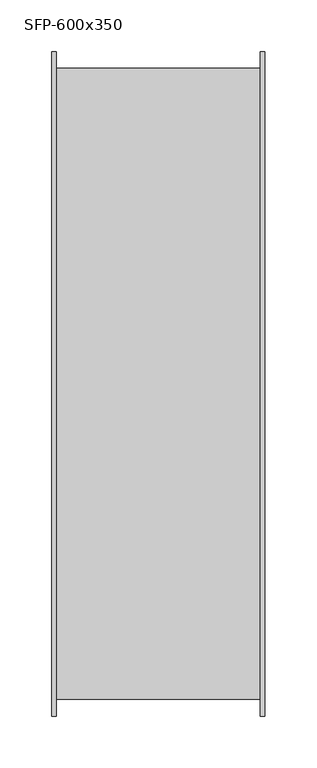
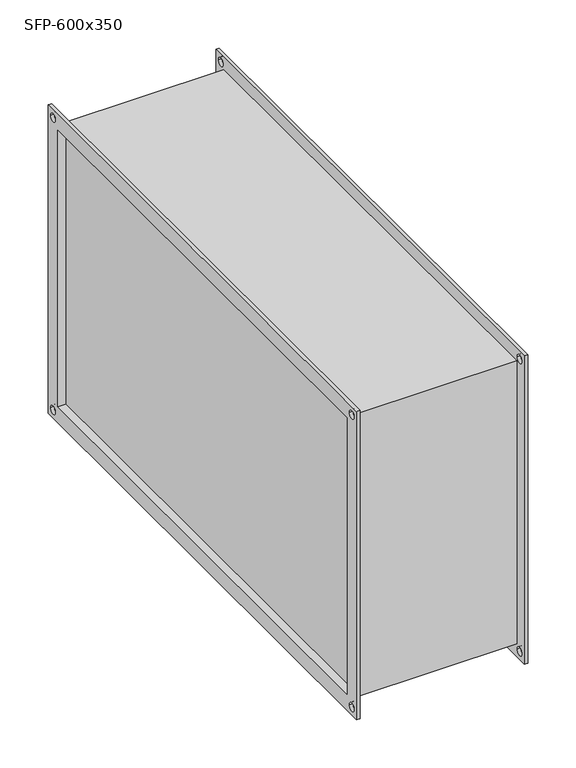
"""IFC4 building model written with IfcOpenShell, lengths in millimetres: damper geometry, СВ_ФильтрКассетный_КанальныйПрямоугольный_200-1000_SFP : SFP-600x350."""

import ifcopenshell
import ifcopenshell.guid

model = None  # the IFC model being written
_history = None  # IfcOwnerHistory: only IFC2X3 demands one
_inside = {}  # id of a spatial element -> (the spatial element, [elements in it])
_under = {}  # id of a project, library or spatial element -> (it, [spatial elements below it])
_declared = {}  # id of a project -> (the project, [libraries it declares])
_typed = {}  # id of a type object -> (the type object, [elements of that type])
_made_of = {}  # id of a material, layer set ... -> (it, [elements and type objects made of it])


def new_model(schema):
    """Start an empty IFC model of exactly this schema.

    Asked for "IFC4X3", IfcOpenShell would pick the latest addendum, in which some entities
    have other attributes; the version numbers below select the first issue.
    IFC2X3 requires an IfcOwnerHistory on every rooted entity: one is made here for all.
    """
    global model, _history
    if schema == "IFC4X3":
        model = ifcopenshell.file(schema_version=(4, 3, 0, 0))
    else:
        model = ifcopenshell.file(schema=schema)
    _inside.clear()
    _under.clear()
    _declared.clear()
    _typed.clear()
    _made_of.clear()
    _history = None
    if model.schema == "IFC2X3":
        org = make("IfcOrganization", Name="unknown")
        user = make(
            "IfcPersonAndOrganization",
            ThePerson=make("IfcPerson", FamilyName="unknown"),
            TheOrganization=org,
        )
        app = make(
            "IfcApplication",
            ApplicationDeveloper=org,
            Version="unknown",
            ApplicationFullName="unknown",
            ApplicationIdentifier="unknown",
        )
        _history = make(
            "IfcOwnerHistory",
            OwningUser=user,
            OwningApplication=app,
            ChangeAction="ADDED",
            CreationDate=0,
        )
    return model


def make(cls, **values):
    """One entity of the class cls with the attributes given. An attribute that is None is left unset."""
    return model.create_entity(
        cls, **{name: value for name, value in values.items() if value is not None}
    )


def rooted(cls, **values):
    """An entity with a GlobalId (a new one), such as an element, a storey or a relation."""
    return make(cls, GlobalId=ifcopenshell.guid.new(), OwnerHistory=_history, **values)


def si_unit(unit_type, name, prefix=None):
    """IfcSIUnit, for example si_unit("LENGTHUNIT", "METRE", prefix="MILLI")."""
    return make("IfcSIUnit", UnitType=unit_type, Prefix=prefix, Name=name)


def assignment(units):
    """IfcUnitAssignment: the units of a project."""
    return None if units is None else make("IfcUnitAssignment", Units=units)


def point(xyz):
    """IfcCartesianPoint."""
    return None if xyz is None else make("IfcCartesianPoint", Coordinates=xyz)


def direction(xyz):
    """IfcDirection."""
    return None if xyz is None else make("IfcDirection", DirectionRatios=xyz)


def frame(location, z_axis=None, x_axis=None):
    """IfcAxis2Placement3D, a coordinate frame: its origin and axes. An axis left out is left unset."""
    return make(
        "IfcAxis2Placement3D",
        Location=point(location),
        Axis=direction(z_axis),
        RefDirection=direction(x_axis),
    )


def origin():
    """The frame at (0, 0, 0) with its axes left unset."""
    return frame((0.0, 0.0, 0.0))


def place(relative_to, where):
    """IfcLocalPlacement: puts the frame where relative to a parent placement (None: the world)."""
    return make(
        "IfcLocalPlacement", PlacementRelTo=relative_to, RelativePlacement=where
    )


def context(
    kind, dimensions, precision=None, world=None, true_north=None, identifier=None
):
    """IfcGeometricRepresentationContext, for example the 3D "Model" context."""
    return make(
        "IfcGeometricRepresentationContext",
        ContextIdentifier=identifier,
        ContextType=kind,
        CoordinateSpaceDimension=dimensions,
        Precision=precision,
        WorldCoordinateSystem=world,
        TrueNorth=true_north,
    )


def project(units=None, contexts=None):
    """IfcProject with its units and contexts."""
    return rooted(
        "IfcProject",
        Name="project",
        RepresentationContexts=contexts,
        UnitsInContext=assignment(units),
    )


def spatial(cls, under=None, at=None, **own):
    """A site, building, storey or space (cls), placed at a placement, below another one or the project."""
    s = rooted(cls, ObjectPlacement=at, **own)
    if under is not None:
        _under.setdefault(under.id(), (under, []))[1].append(s)
    return s


def polyline(points):
    """IfcPolyline through the points."""
    return make("IfcPolyline", Points=[point(p) for p in points])


def circle_curve(where, radius):
    """IfcCircle in the frame where."""
    return make("IfcCircle", Position=where, Radius=radius)


def outline(outer, holes=None, kind="AREA"):
    """IfcArbitraryClosedProfileDef: a profile drawn as a closed curve; with holes, ...WithVoids."""
    if holes is None:
        return make("IfcArbitraryClosedProfileDef", ProfileType=kind, OuterCurve=outer)
    return make(
        "IfcArbitraryProfileDefWithVoids",
        ProfileType=kind,
        OuterCurve=outer,
        InnerCurves=holes,
    )


def extrude(swept, where, along, depth):
    """IfcExtrudedAreaSolid: the profile swept, set in the frame where, extruded along a direction by depth."""
    return make(
        "IfcExtrudedAreaSolid",
        SweptArea=swept,
        Position=where,
        ExtrudedDirection=direction(along),
        Depth=depth,
    )


def shape(context_of_items, identifier, shape_type, items):
    """IfcShapeRepresentation: the items that make up one representation, for example the "Body"."""
    return make(
        "IfcShapeRepresentation",
        ContextOfItems=context_of_items,
        RepresentationIdentifier=identifier,
        RepresentationType=shape_type,
        Items=items,
    )


def source(mapping_origin, context_of_items, identifier, shape_type, items):
    """IfcRepresentationMap: a shape defined once, which mapped items show again and again."""
    return make(
        "IfcRepresentationMap",
        MappingOrigin=mapping_origin,
        MappedRepresentation=shape(context_of_items, identifier, shape_type, items),
    )


def transform(
    local_origin,
    x_axis=None,
    y_axis=None,
    z_axis=None,
    scale=None,
    scale2=None,
    scale3=None,
    uniform=True,
):
    """IfcCartesianTransformationOperator3D, or its non-uniform kind. x_axis, y_axis, z_axis: its Axis1, 2, 3."""
    if uniform:
        return make(
            "IfcCartesianTransformationOperator3D",
            Axis1=direction(x_axis),
            Axis2=direction(y_axis),
            LocalOrigin=point(local_origin),
            Scale=scale,
            Axis3=direction(z_axis),
        )
    return make(
        "IfcCartesianTransformationOperator3DnonUniform",
        Axis1=direction(x_axis),
        Axis2=direction(y_axis),
        LocalOrigin=point(local_origin),
        Scale=scale,
        Axis3=direction(z_axis),
        Scale2=scale2,
        Scale3=scale3,
    )


def mapped(mapping_source, mapping_target):
    """IfcMappedItem: shows the shape of a source again, moved by a transform."""
    return make(
        "IfcMappedItem", MappingSource=mapping_source, MappingTarget=mapping_target
    )


def made_of(thing, what):
    """Note that an element or type object is made of a material, layer set ...; save() writes the relation."""
    if what is not None:
        _made_of.setdefault(what.id(), (what, []))[1].append(thing)
    return thing


def element(
    cls,
    number,
    at=None,
    inside=None,
    cuts=None,
    type_object=None,
    material=None,
    context=None,
    identifier="Body",
    shape_type=None,
    held_by="IfcProductDefinitionShape",
    body=None,
    shapes=None,
    **own,
):
    """One element of the class cls, such as IfcWall. Its Tag is "e" and its number.

    at: its placement. inside: the storey or other place that contains it. cuts: it is an
    opening in that element (IfcRelVoidsElement). A single representation is given by context,
    identifier, shape_type and body (its items); several are given by shapes. held_by: the class
    of the entity that holds the representations. save() writes the other relations.
    """
    e = rooted(cls, Tag="e%d" % number, ObjectPlacement=at, **own)
    if body is not None:
        shapes = [shape(context, identifier, shape_type, body)]
    if shapes is not None:
        e.Representation = make(held_by, Representations=shapes)
    if inside is not None:
        _inside.setdefault(inside.id(), (inside, []))[1].append(e)
    if cuts is not None:
        rooted(
            "IfcRelVoidsElement", RelatingBuildingElement=cuts, RelatedOpeningElement=e
        )
    if type_object is not None:
        _typed.setdefault(type_object.id(), (type_object, []))[1].append(e)
    return made_of(e, material)


def aggregate(whole, parts):
    """IfcRelAggregates: a whole, such as a stair, and the parts it consists of."""
    return rooted("IfcRelAggregates", RelatingObject=whole, RelatedObjects=parts)


def save(model, path):
    """Write the relations noted so far, then the file.

    IfcRelAggregates (storeys below a building ...), IfcRelContainedInSpatialStructure (elements
    in a storey), IfcRelDefinesByType, IfcRelAssociatesMaterial and IfcRelDeclares: one each for
    every whole, place, type object, material and project.
    """
    for whole, parts in _under.values():
        aggregate(whole, parts)
    for where, things in _inside.values():
        rooted(
            "IfcRelContainedInSpatialStructure",
            RelatedElements=things,
            RelatingStructure=where,
        )
    for kind, things in _typed.values():
        rooted("IfcRelDefinesByType", RelatedObjects=things, RelatingType=kind)
    for what, things in _made_of.values():
        rooted("IfcRelAssociatesMaterial", RelatedObjects=things, RelatingMaterial=what)
    for by, libraries in _declared.values():
        rooted("IfcRelDeclares", RelatingContext=by, RelatedDefinitions=libraries)
    model.write(path)


def plane_surface(at):
    """IfcPlane: the flat surface through the origin of the frame at, square to its z axis."""
    return make("IfcPlane", Position=at)


def revolved_surface(curve, axis_point, axis_direction):
    """IfcSurfaceOfRevolution: the curve turned about the line through axis_point along axis_direction."""
    return make(
        "IfcSurfaceOfRevolution",
        SweptCurve=make("IfcArbitraryOpenProfileDef", ProfileType="CURVE", Curve=curve),
        AxisPosition=make("IfcAxis1Placement", Location=point(axis_point), Axis=direction(axis_direction)),
    )


def advanced_brep(points, edges, surfaces, faces):
    """IfcAdvancedBrep: a solid bounded by faces that lie on surfaces and meet in shared edges.

    An edge is (start, end): straight between two places in points (the first is 0);
    or (start, end, curve); or (start, end, curve, False) where it runs against its curve.
    A face is (place in surfaces, loops), or (place, loops, False) where it looks against
    its surface's normal. A loop lists edges by number (the first is 1), with a minus sign
    where the edge is run from its end to its start. The first loop is the outer one.
    """
    corners = [point(p) for p in points]
    vertices = [make("IfcVertexPoint", VertexGeometry=c) for c in corners]
    made = []
    for start, end, *more in edges:
        made.append(
            make(
                "IfcEdgeCurve",
                EdgeStart=vertices[start],
                EdgeEnd=vertices[end],
                EdgeGeometry=more[0] if more else make("IfcPolyline", Points=[corners[start], corners[end]]),
                SameSense=more[1] if len(more) > 1 else True,
            )
        )
    hull = []
    for where, loops, *sense in faces:
        bounds = []
        for j, loop in enumerate(loops):
            ring = [make("IfcOrientedEdge", EdgeElement=made[abs(k) - 1], Orientation=k > 0) for k in loop]
            bounds.append(
                make(
                    "IfcFaceOuterBound" if j == 0 else "IfcFaceBound",
                    Bound=make("IfcEdgeLoop", EdgeList=ring),
                    Orientation=True,
                )
            )
        hull.append(make("IfcAdvancedFace", Bounds=bounds, FaceSurface=surfaces[where], SameSense=sense[0] if sense else True))
    return make("IfcAdvancedBrep", Outer=make("IfcClosedShell", CfsFaces=hull))


def sfp_600x350_8cb88e79(model_context):
    return source(origin(), model_context, "Body", "SolidModel", [
        extrude(outline(polyline([(92.5, 300.0), (92.5, -300.0), (-92.5, -300.0), (-92.5, 300.0), (92.5, 300.0)])), frame((0.0, 0.0, -175.0), z_axis=(0.0, 0.0, 1.0), x_axis=(1.0, 0.0, 0.0)), (0.0, 0.0, 1.0), 350.0),
        advanced_brep(
        [(98.5, -304.0, 179.0), (-98.5, -304.0, 179.0), (-98.5, -304.0, -179.0), (98.5, -304.0, -179.0), (-98.5, 304.0, -179.0), (98.5, 304.0, -179.0), (-98.5, 304.0, 179.0), (98.5, 304.0, 179.0), (-102.5, -320.0, 195.0), (-102.5, 320.0, 195.0), (-102.5, 320.0, -195.0), (-102.5, -320.0, -195.0), (-102.5, -300.0, 175.0), (-102.5, -300.0, -175.0), (-102.5, 300.0, -175.0), (-102.5, 300.0, 175.0), (-102.5, 305.0, 185.0), (-102.5, 315.0, 185.0), (-102.5, -315.0, 185.0), (-102.5, -305.0, 185.0), (-102.5, -315.0, -185.0), (-102.5, -305.0, -185.0), (-102.5, 305.0, -185.0), (-102.5, 315.0, -185.0), (-98.5, -320.0, 195.0), (-98.5, -320.0, -195.0), (-98.5, 320.0, -195.0), (-98.5, 320.0, 195.0), (-98.5, 315.0, 185.0), (-98.5, 305.0, 185.0), (-98.5, -305.0, 185.0), (-98.5, -315.0, 185.0), (-98.5, -305.0, -185.0), (-98.5, -315.0, -185.0), (-98.5, 315.0, -185.0), (-98.5, 305.0, -185.0), (98.5, 320.0, 195.0), (98.5, 320.0, -195.0), (98.5, -320.0, -195.0), (98.5, -320.0, 195.0), (98.5, 305.0, 185.0), (98.5, 315.0, 185.0), (98.5, -315.0, 185.0), (98.5, -305.0, 185.0), (98.5, -315.0, -185.0), (98.5, -305.0, -185.0), (98.5, 305.0, -185.0), (98.5, 315.0, -185.0), (102.5, 320.0, 195.0), (102.5, -320.0, 195.0), (102.5, -320.0, -195.0), (102.5, 320.0, -195.0), (102.5, 300.0, 175.0), (102.5, 300.0, -175.0), (102.5, -300.0, -175.0), (102.5, -300.0, 175.0), (102.5, 315.0, 185.0), (102.5, 305.0, 185.0), (102.5, -305.0, 185.0), (102.5, -315.0, 185.0), (102.5, -305.0, -185.0), (102.5, -315.0, -185.0), (102.5, 315.0, -185.0), (102.5, 305.0, -185.0)],
        [
            (0, 1),
            (1, 2),
            (2, 3),
            (3, 0),
            (2, 4),
            (4, 5),
            (5, 3),
            (4, 6),
            (6, 7),
            (7, 5),
            (0, 7),
            (6, 1),
            (8, 9),
            (9, 10),
            (10, 11),
            (11, 8),
            (12, 13),
            (13, 14),
            (14, 15),
            (15, 12),
            (16, 17, circle_curve(frame((-102.5, 310.0, 185.0), z_axis=(1.0, 0.0, 0.0), x_axis=(0.0, 1.0, 0.0)), 5.0)),
            (17, 16, circle_curve(frame((-102.5, 310.0, 185.0), z_axis=(1.0, 0.0, 0.0), x_axis=(0.0, 1.0, 0.0)), 5.0)),
            (18, 19, circle_curve(frame((-102.5, -310.0, 185.0), z_axis=(1.0, 0.0, 0.0), x_axis=(0.0, 1.0, 0.0)), 5.0)),
            (19, 18, circle_curve(frame((-102.5, -310.0, 185.0), z_axis=(1.0, 0.0, 0.0), x_axis=(0.0, 1.0, 0.0)), 5.0)),
            (20, 21, circle_curve(frame((-102.5, -310.0, -185.0), z_axis=(1.0, 0.0, 0.0), x_axis=(0.0, 1.0, 0.0)), 5.0)),
            (21, 20, circle_curve(frame((-102.5, -310.0, -185.0), z_axis=(1.0, 0.0, 0.0), x_axis=(0.0, 1.0, 0.0)), 5.0)),
            (22, 23, circle_curve(frame((-102.5, 310.0, -185.0), z_axis=(1.0, 0.0, 0.0), x_axis=(0.0, 1.0, 0.0)), 5.0)),
            (23, 22, circle_curve(frame((-102.5, 310.0, -185.0), z_axis=(1.0, 0.0, 0.0), x_axis=(0.0, 1.0, 0.0)), 5.0)),
            (24, 25),
            (25, 26),
            (26, 27),
            (27, 24),
            (28, 29, circle_curve(frame((-98.5, 310.0, 185.0), z_axis=(-1.0, 0.0, 0.0), x_axis=(0.0, 1.0, 0.0)), 5.0)),
            (29, 28, circle_curve(frame((-98.5, 310.0, 185.0), z_axis=(-1.0, 0.0, 0.0), x_axis=(0.0, 1.0, 0.0)), 5.0)),
            (30, 31, circle_curve(frame((-98.5, -310.0, 185.0), z_axis=(-1.0, 0.0, 0.0), x_axis=(0.0, 1.0, 0.0)), 5.0)),
            (31, 30, circle_curve(frame((-98.5, -310.0, 185.0), z_axis=(-1.0, 0.0, 0.0), x_axis=(0.0, 1.0, 0.0)), 5.0)),
            (32, 33, circle_curve(frame((-98.5, -310.0, -185.0), z_axis=(-1.0, 0.0, 0.0), x_axis=(0.0, 1.0, 0.0)), 5.0)),
            (33, 32, circle_curve(frame((-98.5, -310.0, -185.0), z_axis=(-1.0, 0.0, 0.0), x_axis=(0.0, 1.0, 0.0)), 5.0)),
            (34, 35, circle_curve(frame((-98.5, 310.0, -185.0), z_axis=(-1.0, 0.0, 0.0), x_axis=(0.0, 1.0, 0.0)), 5.0)),
            (35, 34, circle_curve(frame((-98.5, 310.0, -185.0), z_axis=(-1.0, 0.0, 0.0), x_axis=(0.0, 1.0, 0.0)), 5.0)),
            (11, 25),
            (24, 8),
            (10, 26),
            (9, 27),
            (36, 37),
            (37, 38),
            (38, 39),
            (39, 36),
            (40, 41, circle_curve(frame((98.5, 310.0, 185.0), z_axis=(1.0, 0.0, 0.0), x_axis=(0.0, 1.0, 0.0)), 5.0)),
            (41, 40, circle_curve(frame((98.5, 310.0, 185.0), z_axis=(1.0, 0.0, 0.0), x_axis=(0.0, 1.0, 0.0)), 5.0)),
            (42, 43, circle_curve(frame((98.5, -310.0, 185.0), z_axis=(1.0, 0.0, 0.0), x_axis=(0.0, 1.0, 0.0)), 5.0)),
            (43, 42, circle_curve(frame((98.5, -310.0, 185.0), z_axis=(1.0, 0.0, 0.0), x_axis=(0.0, 1.0, 0.0)), 5.0)),
            (44, 45, circle_curve(frame((98.5, -310.0, -185.0), z_axis=(1.0, 0.0, 0.0), x_axis=(0.0, 1.0, 0.0)), 5.0)),
            (45, 44, circle_curve(frame((98.5, -310.0, -185.0), z_axis=(1.0, 0.0, 0.0), x_axis=(0.0, 1.0, 0.0)), 5.0)),
            (46, 47, circle_curve(frame((98.5, 310.0, -185.0), z_axis=(1.0, 0.0, 0.0), x_axis=(0.0, 1.0, 0.0)), 5.0)),
            (47, 46, circle_curve(frame((98.5, 310.0, -185.0), z_axis=(1.0, 0.0, 0.0), x_axis=(0.0, 1.0, 0.0)), 5.0)),
            (48, 49),
            (49, 50),
            (50, 51),
            (51, 48),
            (52, 53),
            (53, 54),
            (54, 55),
            (55, 52),
            (56, 57, circle_curve(frame((102.5, 310.0, 185.0), z_axis=(-1.0, 0.0, 0.0), x_axis=(0.0, 1.0, 0.0)), 5.0)),
            (57, 56, circle_curve(frame((102.5, 310.0, 185.0), z_axis=(-1.0, 0.0, 0.0), x_axis=(0.0, 1.0, 0.0)), 5.0)),
            (58, 59, circle_curve(frame((102.5, -310.0, 185.0), z_axis=(-1.0, 0.0, 0.0), x_axis=(0.0, 1.0, 0.0)), 5.0)),
            (59, 58, circle_curve(frame((102.5, -310.0, 185.0), z_axis=(-1.0, 0.0, 0.0), x_axis=(0.0, 1.0, 0.0)), 5.0)),
            (60, 61, circle_curve(frame((102.5, -310.0, -185.0), z_axis=(-1.0, 0.0, 0.0), x_axis=(0.0, 1.0, 0.0)), 5.0)),
            (61, 60, circle_curve(frame((102.5, -310.0, -185.0), z_axis=(-1.0, 0.0, 0.0), x_axis=(0.0, 1.0, 0.0)), 5.0)),
            (62, 63, circle_curve(frame((102.5, 310.0, -185.0), z_axis=(-1.0, 0.0, 0.0), x_axis=(0.0, 1.0, 0.0)), 5.0)),
            (63, 62, circle_curve(frame((102.5, 310.0, -185.0), z_axis=(-1.0, 0.0, 0.0), x_axis=(0.0, 1.0, 0.0)), 5.0)),
            (39, 49),
            (48, 36),
            (38, 50),
            (37, 51),
            (15, 52),
            (55, 12),
            (14, 53),
            (13, 54),
            (16, 29),
            (28, 17),
            (40, 57),
            (56, 41),
            (18, 31),
            (30, 19),
            (42, 59),
            (58, 43),
            (20, 33),
            (32, 21),
            (44, 61),
            (60, 45),
            (22, 35),
            (34, 23),
            (46, 63),
            (62, 47),
        ],
        [
            plane_surface(frame((98.5, -304.0, 179.0), z_axis=(0.0, -1.0, 0.0), x_axis=(-1.0, 0.0, 0.0))),
            plane_surface(frame((98.5, -304.0, -179.0), z_axis=(0.0, 0.0, -1.0), x_axis=(-1.0, 0.0, 0.0))),
            plane_surface(frame((98.5, 304.0, -179.0), z_axis=(0.0, 1.0, 0.0), x_axis=(-1.0, 0.0, 0.0))),
            plane_surface(frame((98.5, 304.0, 179.0), z_axis=(0.0, 0.0, 1.0), x_axis=(-1.0, 0.0, 0.0))),
            plane_surface(frame((-102.5, -320.0, 195.0), z_axis=(-1.0, 0.0, 0.0), x_axis=(0.0, 0.0, 1.0))),
            plane_surface(frame((-98.5, -320.0, 195.0), z_axis=(1.0, 0.0, 0.0), x_axis=(0.0, 0.0, -1.0))),
            plane_surface(frame((-98.5, -320.0, 195.0), z_axis=(0.0, -1.0, 0.0), x_axis=(-1.0, 0.0, 0.0))),
            plane_surface(frame((-98.5, -320.0, -195.0), z_axis=(0.0, 0.0, -1.0), x_axis=(-1.0, 0.0, 0.0))),
            plane_surface(frame((-98.5, 320.0, -195.0), z_axis=(0.0, 1.0, 0.0), x_axis=(-1.0, 0.0, 0.0))),
            plane_surface(frame((-98.5, 320.0, 195.0), z_axis=(0.0, 0.0, 1.0), x_axis=(-1.0, 0.0, 0.0))),
            plane_surface(frame((98.5, 300.0, -175.0), z_axis=(-1.0, 0.0, 0.0), x_axis=(0.0, 0.0, 1.0))),
            plane_surface(frame((102.5, 300.0, -175.0), z_axis=(1.0, 0.0, 0.0), x_axis=(0.0, 0.0, -1.0))),
            plane_surface(frame((102.5, 320.0, 195.0), z_axis=(0.0, 0.0, 1.0), x_axis=(-1.0, 0.0, 0.0))),
            plane_surface(frame((102.5, -320.0, 195.0), z_axis=(0.0, -1.0, 0.0), x_axis=(-1.0, 0.0, 0.0))),
            plane_surface(frame((102.5, -320.0, -195.0), z_axis=(0.0, 0.0, -1.0), x_axis=(-1.0, 0.0, 0.0))),
            plane_surface(frame((102.5, 320.0, -195.0), z_axis=(0.0, 1.0, 0.0), x_axis=(-1.0, 0.0, 0.0))),
            plane_surface(frame((-98.5, -300.0, 175.0), z_axis=(0.0, 0.0, -1.0), x_axis=(-1.0, 0.0, 0.0))),
            plane_surface(frame((-98.5, 300.0, 175.0), z_axis=(0.0, -1.0, 0.0), x_axis=(-1.0, 0.0, 0.0))),
            plane_surface(frame((-98.5, 300.0, -175.0), z_axis=(0.0, 0.0, 1.0), x_axis=(-1.0, 0.0, 0.0))),
            plane_surface(frame((-98.5, -300.0, -175.0), z_axis=(0.0, 1.0, 0.0), x_axis=(-1.0, 0.0, 0.0))),
            revolved_surface(polyline([(-98.5, 315.0, 185.0), (-102.5, 315.0, 185.0)]), (-102.5, 310.0, 185.0), (1.0, 0.0, 0.0)),
            revolved_surface(polyline([(102.5, 315.0, 185.0), (98.5, 315.0, 185.0)]), (-102.5, 310.0, 185.0), (1.0, 0.0, 0.0)),
            revolved_surface(polyline([(-98.5, -305.0, 185.0), (-102.5, -305.0, 185.0)]), (0.0, -310.0, 185.0), (1.0, 0.0, 0.0)),
            revolved_surface(polyline([(102.5, -305.0, 185.0), (98.5, -305.0, 185.0)]), (0.0, -310.0, 185.0), (1.0, 0.0, 0.0)),
            revolved_surface(polyline([(-98.5, -305.0, -185.0), (-102.5, -305.0, -185.0)]), (0.0, -310.0, -185.0), (1.0, 0.0, 0.0)),
            revolved_surface(polyline([(102.5, -305.0, -185.0), (98.5, -305.0, -185.0)]), (0.0, -310.0, -185.0), (1.0, 0.0, 0.0)),
            revolved_surface(polyline([(-98.5, 315.0, -185.0), (-102.5, 315.0, -185.0)]), (0.0, 310.0, -185.0), (1.0, 0.0, 0.0)),
            revolved_surface(polyline([(102.5, 315.0, -185.0), (98.5, 315.0, -185.0)]), (0.0, 310.0, -185.0), (1.0, 0.0, 0.0)),
        ],
        [
            (0, [[1, 2, 3, 4]]),
            (1, [[-3, 5, 6, 7]]),
            (2, [[-6, 8, 9, 10]]),
            (3, [[-1, 11, -9, 12]]),
            (4, [[13, 14, 15, 16], [17, 18, 19, 20], [21, 22], [23, 24], [25, 26], [27, 28]]),
            (5, [[29, 30, 31, 32], [-2, -12, -8, -5], [33, 34], [35, 36], [37, 38], [39, 40]]),
            (6, [[-16, 41, -29, 42]]),
            (7, [[-15, 43, -30, -41]]),
            (8, [[-14, 44, -31, -43]]),
            (9, [[-13, -42, -32, -44]]),
            (10, [[45, 46, 47, 48], [-4, -7, -10, -11], [49, 50], [51, 52], [53, 54], [55, 56]]),
            (11, [[57, 58, 59, 60], [61, 62, 63, 64], [65, 66], [67, 68], [69, 70], [71, 72]]),
            (12, [[-48, 73, -57, 74]]),
            (13, [[-47, 75, -58, -73]]),
            (14, [[-46, 76, -59, -75]]),
            (15, [[-45, -74, -60, -76]]),
            (16, [[-20, 77, -64, 78]]),
            (17, [[-77, -19, 79, -61]]),
            (18, [[-79, -18, 80, -62]]),
            (19, [[-80, -17, -78, -63]]),
            (20, [[81, -33, 82, -21]]),
            (21, [[83, -65, 84, -49]]),
            (20, [[-81, -22, -82, -34]]),
            (21, [[-83, -50, -84, -66]]),
            (22, [[85, -35, 86, -23]]),
            (23, [[87, -67, 88, -51]]),
            (22, [[-85, -24, -86, -36]]),
            (23, [[-87, -52, -88, -68]]),
            (24, [[89, -37, 90, -25]]),
            (25, [[91, -69, 92, -53]]),
            (24, [[-89, -26, -90, -38]]),
            (25, [[-91, -54, -92, -70]]),
            (26, [[93, -39, 94, -27]]),
            (27, [[95, -71, 96, -55]]),
            (26, [[-93, -28, -94, -40]]),
            (27, [[-95, -56, -96, -72]]),
        ],
    ),
    ])


if __name__ == "__main__":
    model = new_model("IFC4")
    model_context = context("Model", 3, world=origin())
    ifc_project = project(units=[si_unit("LENGTHUNIT", "METRE", prefix="MILLI")], contexts=[model_context])
    site = spatial("IfcSite", under=ifc_project)
    building = spatial("IfcBuilding", under=site)
    placement = place(None, origin())
    sfp_600x350_shape = sfp_600x350_8cb88e79(model_context)
    element("IfcDamper", 1, ObjectType="СВ_ФильтрКассетный_КанальныйПрямоугольный_200-1000_SFP : SFP-600x350", at=placement, inside=building, context=model_context, shape_type="MappedRepresentation", body=[
        mapped(sfp_600x350_shape, transform((0.0, 0.0, 0.0), x_axis=(1.0, 0.0, 0.0), y_axis=(0.0, 1.0, 0.0), z_axis=(0.0, 0.0, 1.0))),
    ])
    save(model, "model.ifc")
